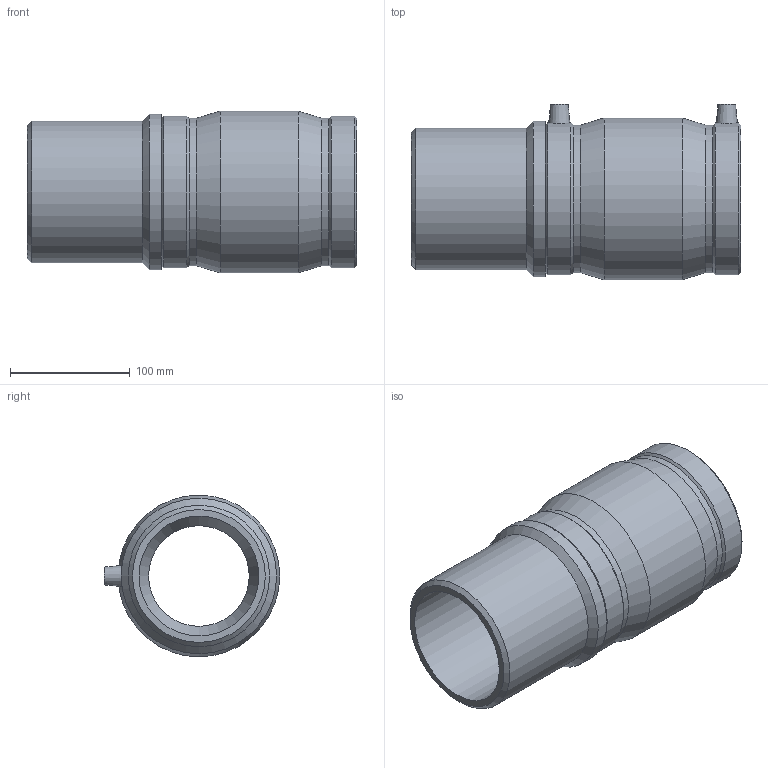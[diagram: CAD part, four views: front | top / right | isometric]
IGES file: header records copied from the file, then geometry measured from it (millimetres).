
Global section: file name: 495704110100.ipt; native system: Autodesk Inventor 2015; preprocessor: unknown; author: KIM; date: 20180502.161906; units: millimetre
Bounding box: 275 x 146.5 x 135 mm (x, y, z)
Volume: 1351311 mm3; surface area: 216961.4 mm2
Topology: 1 solids, 2 shells, 43 faces, 92 edges, 60 vertices
Faces by surface type: plane 13, cylinder 11, cone 10, revolution 9
Full cylindrical faces by diameter (mm): 4 x2, 110 x2, 118 x1, 123.093 x2, 126.9 x2, 129.8 x1, 135 x1
